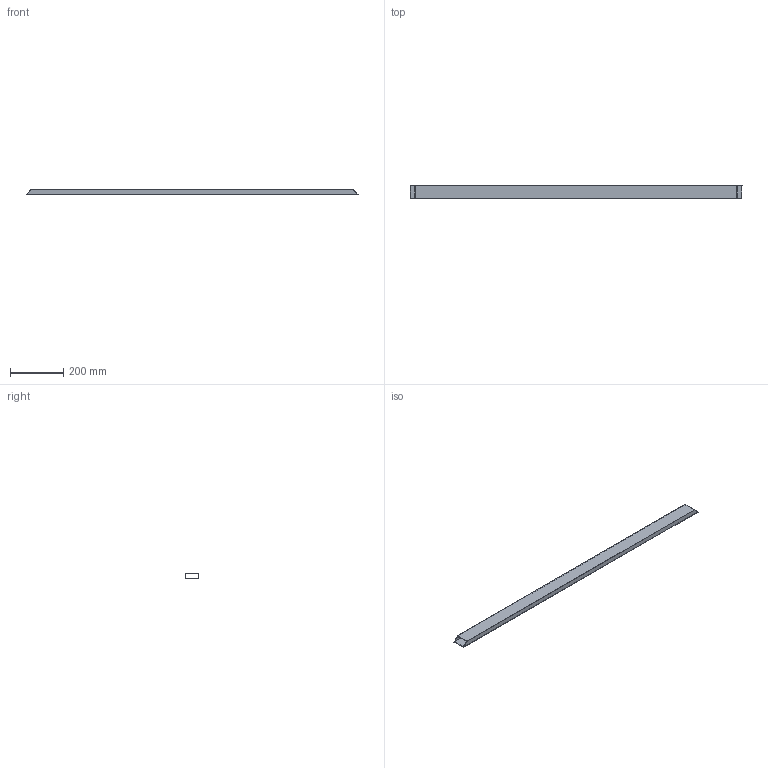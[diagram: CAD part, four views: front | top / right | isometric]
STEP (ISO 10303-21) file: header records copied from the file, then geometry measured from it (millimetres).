
FILE_DESCRIPTION(/* description */ (''),/* implementation_level */ '2;1');
FILE_NAME(/* name */ 'Pos122-Koker 50x20x2 EN 10219-2-S235JRH-2st',/* time_stamp */ '2024-08-06T13:49:48+02:00',/* author */ (''),/* organization */ (''),/* preprocessor_version */ 'ST-DEVELOPER v16.5',/* originating_system */ 'HiCAD 2024 2901.2 Build 361',/* authorisation */ '');
FILE_SCHEMA (('AUTOMOTIVE_DESIGN { 1 0 10303 214 1 1 1 1 }'));
Length unit declared in the file: millimetre
Products named in the file (1): Pos122-Koker 50x20x2 EN 10219-2-S235JRH-2st
Bounding box: 1250 x 50 x 20 mm (x, y, z)
Volume: 324720 mm3; surface area: 325466.7 mm2
Topology: 1 solids, 1 shells, 10 faces, 24 edges, 16 vertices
Faces by surface type: plane 10
Entity records: 550 total; most frequent: CARTESIAN_POINT 50, PRESENTATION_STYLE_ASSIGNMENT 49, COLOUR_RGB 49, DRAUGHTING_PRE_DEFINED_CURVE_FONT 48, CURVE_STYLE 48, OVER_RIDING_STYLED_ITEM 48, ORIENTED_EDGE 48, DIRECTION 44
